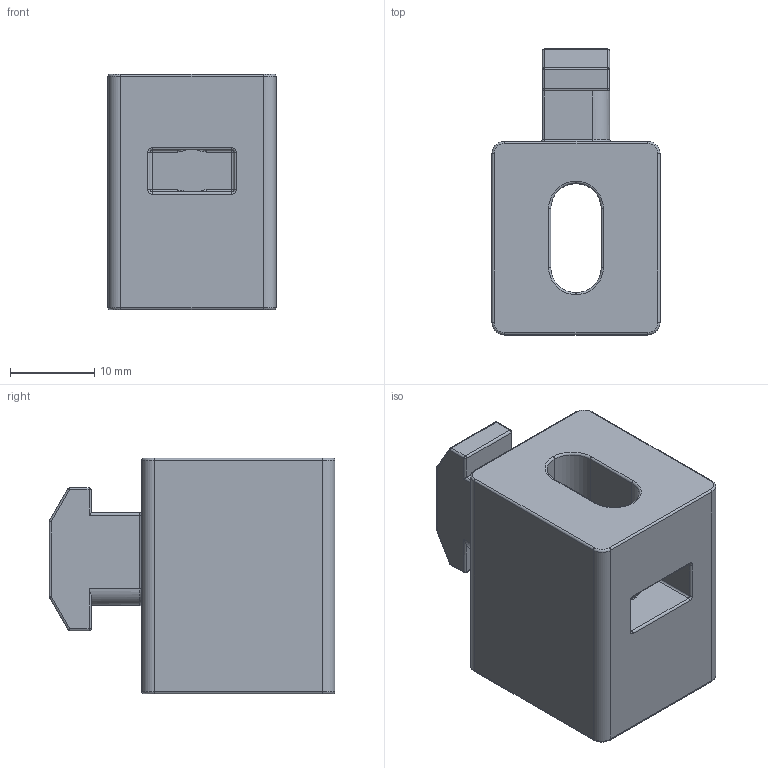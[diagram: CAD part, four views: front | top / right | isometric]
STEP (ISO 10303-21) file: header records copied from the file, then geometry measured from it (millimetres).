
FILE_DESCRIPTION (( 'STEP AP214' ), '1' );
FILE_NAME ('3142.STEP', '2015-04-16T10:39:04', ( '' ), ( '' ), 'SwSTEP 2.0', 'SolidWorks 2014', '' );
FILE_SCHEMA (( 'AUTOMOTIVE_DESIGN' ));
Length unit declared in the file: millimetre
Products named in the file (1): 3142
Bounding box: 20 x 34 x 28 mm (x, y, z)
Volume: 11428.4 mm3; surface area: 4729 mm2
Topology: 1 solids, 1 shells, 156 faces, 360 edges, 190 vertices
Faces by surface type: cylinder 76, torus 32, plane 28, sphere 16, bspline 4
Entity records: 4378 total; most frequent: CARTESIAN_POINT 847, DIRECTION 816, ORIENTED_EDGE 688, EDGE_CURVE 344, AXIS2_PLACEMENT_3D 331, VERTEX_POINT 190, CIRCLE 178, EDGE_LOOP 160
